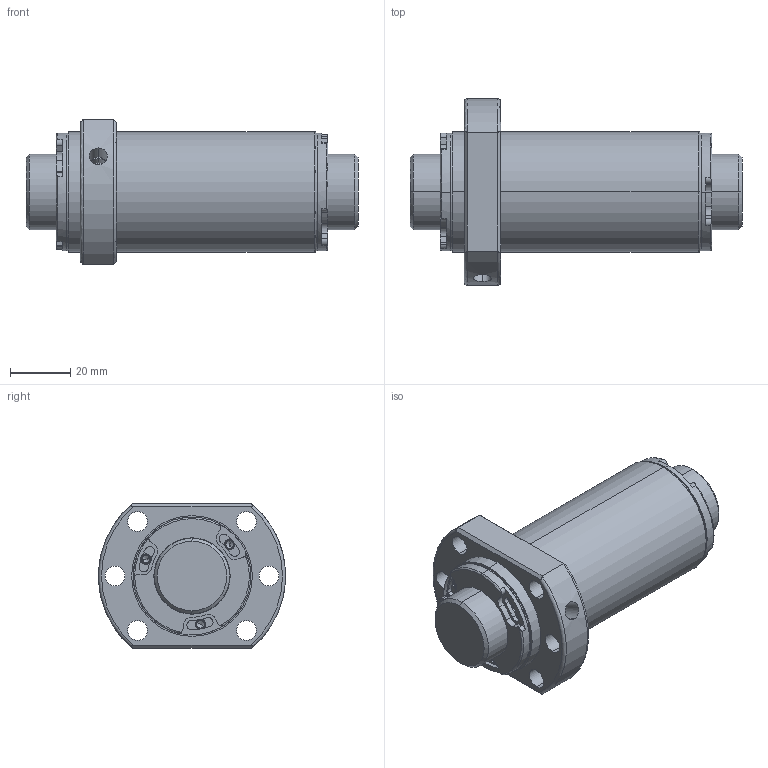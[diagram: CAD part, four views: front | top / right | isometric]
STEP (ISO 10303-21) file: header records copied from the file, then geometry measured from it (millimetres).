
FILE_DESCRIPTION (( 'STEP AP203' ), '1' );
FILE_NAME ('SFHR02525B1D-C.STEP', '2020-06-17T08:03:07', ( '' ), ( '' ), 'SwSTEP 2.0', 'SolidWorks 2013', '' );
FILE_SCHEMA (( 'CONFIG_CONTROL_DESIGN' ));
Length unit declared in the file: millimetre
Products named in the file (1): SFHR02525B1D-C
Bounding box: 110 x 61.93 x 48 mm (x, y, z)
Volume: 129005.1 mm3; surface area: 35179.7 mm2
Topology: 2 solids, 2 shells, 246 faces, 612 edges, 382 vertices
Faces by surface type: cylinder 134, plane 70, cone 28, torus 14
Entity records: 7737 total; most frequent: CARTESIAN_POINT 1553, DIRECTION 1432, ORIENTED_EDGE 1200, AXIS2_PLACEMENT_3D 609, EDGE_CURVE 600, VERTEX_POINT 382, CIRCLE 362, EDGE_LOOP 286
